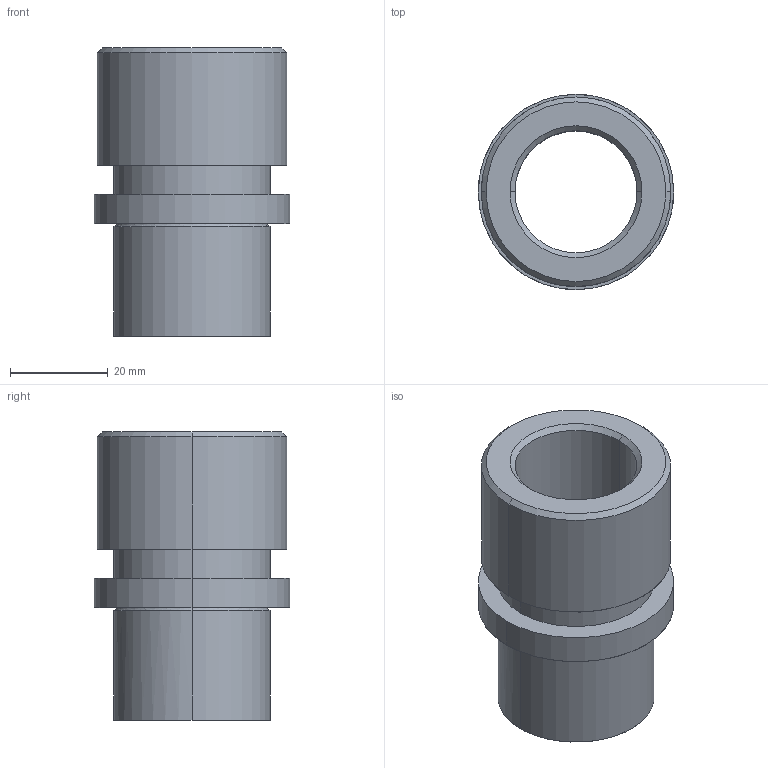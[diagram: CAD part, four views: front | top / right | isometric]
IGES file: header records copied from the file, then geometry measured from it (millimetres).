
Start section: START RECORD GO HERE.
Global section: file name: 733-19.igs; native system: DASSAULT SYSTEMES CATIA V5 R20 - www.3ds.com; preprocessor: CATIA Version 5 Release 20 ; author: Utente; organization: NB04-ASUS; date: 20210111.184209; units: millimetre
Bounding box: 40 x 40 x 59 mm (x, y, z)
Surface area: 13514.5 mm2 (no closed solid volume)
Topology: 0 solids, 0 shells, 25 faces, 100 edges, 100 vertices
Faces by surface type: revolution 20, plane 5
